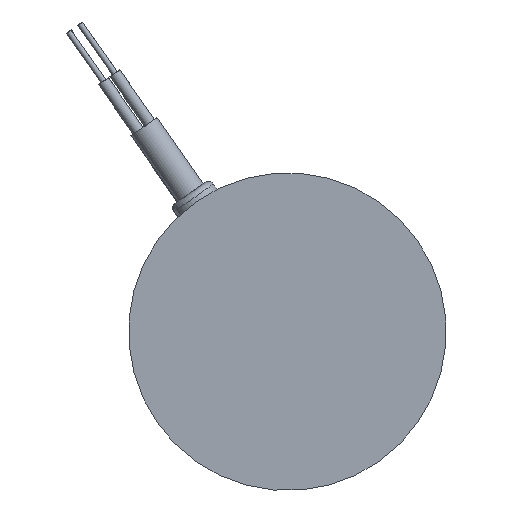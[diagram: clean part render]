
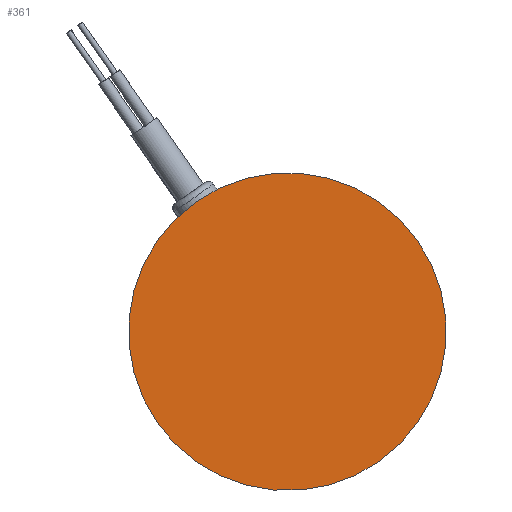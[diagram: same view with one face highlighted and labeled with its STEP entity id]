
A CAD part, left-side view. The second image highlights one B-rep face of the part: STEP entity #361.
In plain terms, the highlighted planar face has unit normal (-1, 0, 0).
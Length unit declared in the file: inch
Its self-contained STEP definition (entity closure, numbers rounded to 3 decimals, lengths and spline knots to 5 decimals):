
#170 = CARTESIAN_POINT ( 'NONE',  ( -2.84882, 0., 0. ) ) ;
#354 = EDGE_CURVE ( 'NONE', #1107, #1908, #504, .T. ) ;
#361 = ADVANCED_FACE ( 'NONE', ( #3122 ), #1585, .F. ) ;
#375 = DIRECTION ( 'NONE',  ( 0., 0.707, 0.707 ) ) ;
#498 = CIRCLE ( 'NONE', #530, 0.7874 ) ;
#504 = CIRCLE ( 'NONE', #3154, 0.7874 ) ;
#530 = AXIS2_PLACEMENT_3D ( 'NONE', #170, #3107, #3095 ) ;
#591 = AXIS2_PLACEMENT_3D ( 'NONE', #2292, #1801, #375 ) ;
#608 = CARTESIAN_POINT ( 'NONE',  ( -2.84882, 0.55678, 0.55678 ) ) ;
#1107 = VERTEX_POINT ( 'NONE', #2449 ) ;
#1444 = EDGE_LOOP ( 'NONE', ( #1670, #2591 ) ) ;
#1566 = DIRECTION ( 'NONE',  ( 1., 0., 0. ) ) ;
#1585 = PLANE ( 'NONE',  #591 ) ;
#1670 = ORIENTED_EDGE ( 'NONE', *, *, #354, .F. ) ;
#1801 = DIRECTION ( 'NONE',  ( 1., 0., 0. ) ) ;
#1908 = VERTEX_POINT ( 'NONE', #608 ) ;
#2292 = CARTESIAN_POINT ( 'NONE',  ( -2.84882, 0., 0. ) ) ;
#2301 = DIRECTION ( 'NONE',  ( 0., 0.707, 0.707 ) ) ;
#2449 = CARTESIAN_POINT ( 'NONE',  ( -2.84882, -0.55678, -0.55678 ) ) ;
#2486 = EDGE_CURVE ( 'NONE', #1908, #1107, #498, .T. ) ;
#2533 = CARTESIAN_POINT ( 'NONE',  ( -2.84882, 0., 0. ) ) ;
#2591 = ORIENTED_EDGE ( 'NONE', *, *, #2486, .F. ) ;
#3095 = DIRECTION ( 'NONE',  ( 0., 0.707, 0.707 ) ) ;
#3107 = DIRECTION ( 'NONE',  ( 1., 0., 0. ) ) ;
#3122 = FACE_OUTER_BOUND ( 'NONE', #1444, .T. ) ;
#3154 = AXIS2_PLACEMENT_3D ( 'NONE', #2533, #1566, #2301 ) ;
